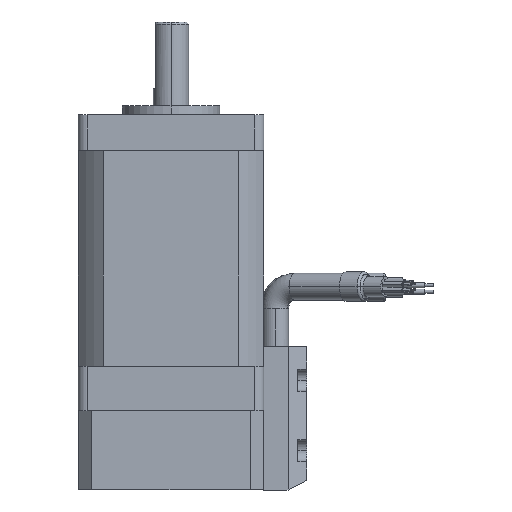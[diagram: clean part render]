
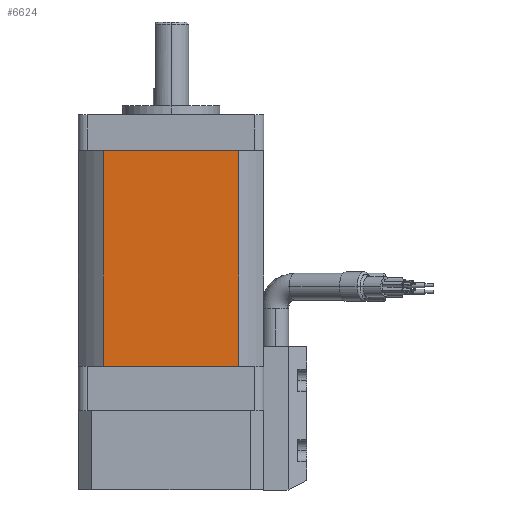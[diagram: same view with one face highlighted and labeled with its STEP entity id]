
A CAD part, left-side view. The second image highlights one B-rep face of the part: STEP entity #6624.
In plain terms, the highlighted planar face has unit normal (-1, 0, 0).
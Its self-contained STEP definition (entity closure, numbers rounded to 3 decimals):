
#356 = LINE ( 'NONE', #6050, #1369 ) ;
#539 = FACE_OUTER_BOUND ( 'NONE', #8861, .T. ) ;
#634 = VECTOR ( 'NONE', #2660, 1000. ) ;
#681 = CARTESIAN_POINT ( 'NONE',  ( -21., -15.33, 58.9 ) ) ;
#1255 = ORIENTED_EDGE ( 'NONE', *, *, #8173, .F. ) ;
#1369 = VECTOR ( 'NONE', #3383, 1000. ) ;
#1415 = CARTESIAN_POINT ( 'NONE',  ( -21., -15.33, 10. ) ) ;
#1464 = EDGE_CURVE ( 'NONE', #1919, #5548, #7592, .T. ) ;
#1919 = VERTEX_POINT ( 'NONE', #2301 ) ;
#2160 = LINE ( 'NONE', #7842, #6861 ) ;
#2222 = CARTESIAN_POINT ( 'NONE',  ( -21., 15.33, 141.274 ) ) ;
#2301 = CARTESIAN_POINT ( 'NONE',  ( -21., 15.33, 10. ) ) ;
#2313 = ORIENTED_EDGE ( 'NONE', *, *, #8806, .T. ) ;
#2660 = DIRECTION ( 'NONE',  ( 0., 0., 1. ) ) ;
#3252 = CARTESIAN_POINT ( 'NONE',  ( -21., 15.33, 58.9 ) ) ;
#3383 = DIRECTION ( 'NONE',  ( 0., -1., 0. ) ) ;
#3515 = CARTESIAN_POINT ( 'NONE',  ( -21., 19., 67. ) ) ;
#3673 = EDGE_CURVE ( 'NONE', #4258, #5548, #8478, .T. ) ;
#4075 = DIRECTION ( 'NONE',  ( 0., 1., 0. ) ) ;
#4258 = VERTEX_POINT ( 'NONE', #681 ) ;
#5548 = VERTEX_POINT ( 'NONE', #3252 ) ;
#5791 = CARTESIAN_POINT ( 'NONE',  ( -21., 19., 58.9 ) ) ;
#6050 = CARTESIAN_POINT ( 'NONE',  ( -21., 19., 10. ) ) ;
#6105 = VERTEX_POINT ( 'NONE', #1415 ) ;
#6184 = PLANE ( 'NONE',  #9083 ) ;
#6443 = DIRECTION ( 'NONE',  ( 0., 0., -1. ) ) ;
#6624 = ADVANCED_FACE ( 'NONE', ( #539 ), #6184, .F. ) ;
#6861 = VECTOR ( 'NONE', #6443, 1000. ) ;
#7190 = DIRECTION ( 'NONE',  ( 0., 1., 0. ) ) ;
#7257 = VECTOR ( 'NONE', #7190, 1000. ) ;
#7592 = LINE ( 'NONE', #2222, #634 ) ;
#7842 = CARTESIAN_POINT ( 'NONE',  ( -21., -15.33, 141.274 ) ) ;
#8125 = ORIENTED_EDGE ( 'NONE', *, *, #3673, .T. ) ;
#8173 = EDGE_CURVE ( 'NONE', #4258, #6105, #2160, .T. ) ;
#8478 = LINE ( 'NONE', #5791, #7257 ) ;
#8806 = EDGE_CURVE ( 'NONE', #1919, #6105, #356, .T. ) ;
#8861 = EDGE_LOOP ( 'NONE', ( #9186, #2313, #1255, #8125 ) ) ;
#9002 = DIRECTION ( 'NONE',  ( 1., 0., 0. ) ) ;
#9083 = AXIS2_PLACEMENT_3D ( 'NONE', #3515, #9002, #4075 ) ;
#9186 = ORIENTED_EDGE ( 'NONE', *, *, #1464, .F. ) ;
